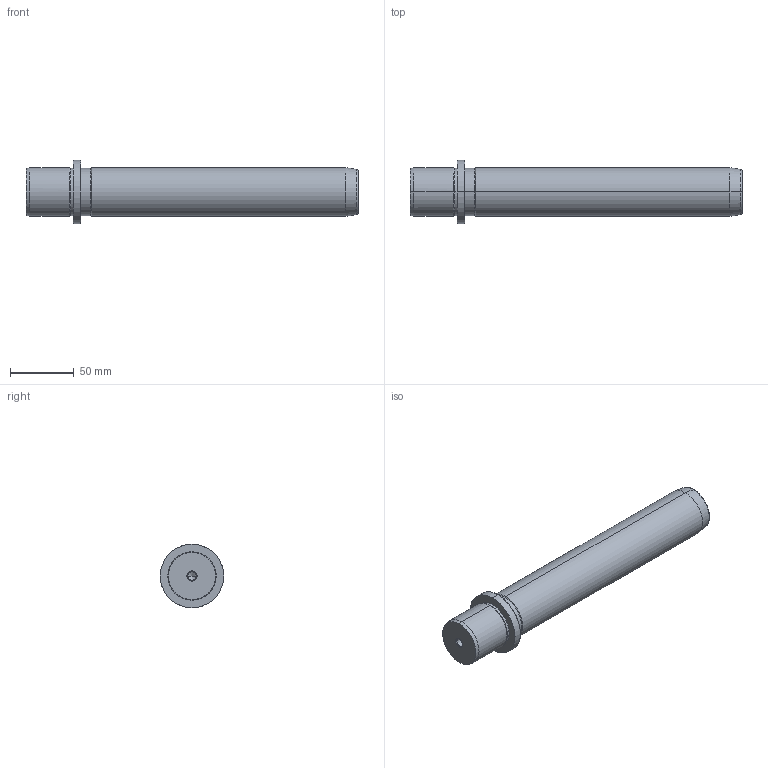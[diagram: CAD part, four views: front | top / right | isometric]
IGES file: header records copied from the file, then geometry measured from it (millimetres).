
Start section: START RECORD GO HERE.
Global section: file name: 718-38x224.igs; native system: DASSAULT SYSTEMES CATIA V5 R20 - www.3ds.com; preprocessor: CATIA Version 5 Release 20 ; author: Utente; organization: NB04-ASUS; date: 20210102.135528; units: millimetre
Bounding box: 261 x 50 x 50 mm (x, y, z)
Surface area: 36166 mm2 (no closed solid volume)
Topology: 0 solids, 0 shells, 36 faces, 196 edges, 192 vertices
Faces by surface type: revolution 32, plane 4
